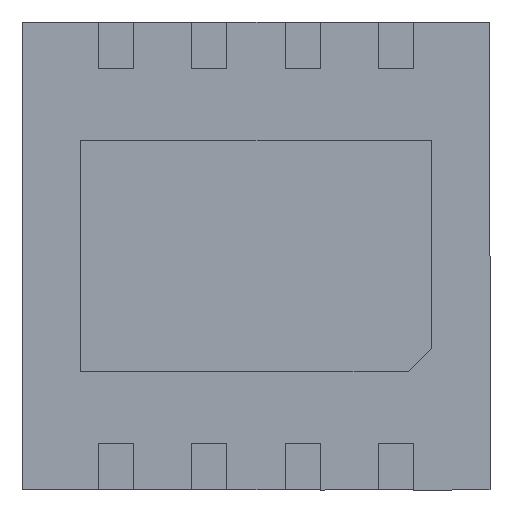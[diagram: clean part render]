
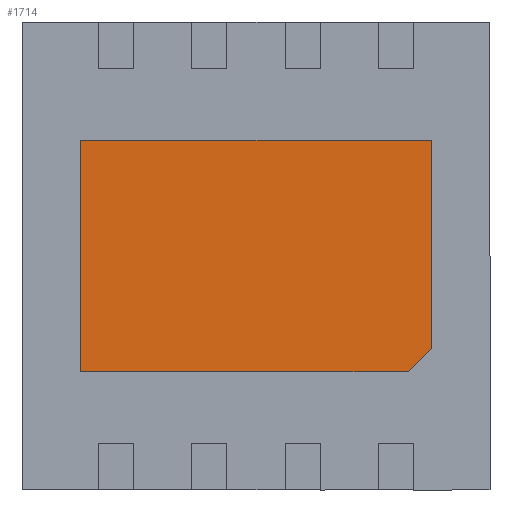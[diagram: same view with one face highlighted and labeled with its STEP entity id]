
A CAD part, front view. The second image highlights one B-rep face of the part: STEP entity #1714.
In plain terms, the highlighted planar face has unit normal (0, -1, 0).
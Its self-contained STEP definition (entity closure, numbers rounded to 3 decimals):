
#47 = EDGE_CURVE ( 'NONE', #1063, #1628, #2824, .T. ) ;
#126 = CARTESIAN_POINT ( 'NONE',  ( 0.99, 0., -1.5 ) ) ;
#172 = DIRECTION ( 'NONE',  ( 1., 0., 0. ) ) ;
#233 = VECTOR ( 'NONE', #2518, 1000. ) ;
#253 = CARTESIAN_POINT ( 'NONE',  ( 0.99, 0., 1.5 ) ) ;
#440 = VERTEX_POINT ( 'NONE', #2720 ) ;
#528 = FACE_OUTER_BOUND ( 'NONE', #708, .T. ) ;
#533 = CARTESIAN_POINT ( 'NONE',  ( 0.99, 0., 1.5 ) ) ;
#652 = CARTESIAN_POINT ( 'NONE',  ( 0.99, 0., -1.5 ) ) ;
#685 = ORIENTED_EDGE ( 'NONE', *, *, #1474, .T. ) ;
#708 = EDGE_LOOP ( 'NONE', ( #685, #1148, #1453, #1261, #1161 ) ) ;
#752 = CARTESIAN_POINT ( 'NONE',  ( 0., 0., 0. ) ) ;
#824 = CARTESIAN_POINT ( 'NONE',  ( -0.99, 0., 1.5 ) ) ;
#984 = AXIS2_PLACEMENT_3D ( 'NONE', #752, #1459, #1214 ) ;
#991 = LINE ( 'NONE', #253, #1044 ) ;
#1044 = VECTOR ( 'NONE', #2932, 1000. ) ;
#1063 = VERTEX_POINT ( 'NONE', #2379 ) ;
#1082 = VECTOR ( 'NONE', #2383, 1000. ) ;
#1148 = ORIENTED_EDGE ( 'NONE', *, *, #1539, .T. ) ;
#1161 = ORIENTED_EDGE ( 'NONE', *, *, #2800, .T. ) ;
#1177 = VERTEX_POINT ( 'NONE', #2428 ) ;
#1187 = CARTESIAN_POINT ( 'NONE',  ( -1.145, 0., -1.145 ) ) ;
#1214 = DIRECTION ( 'NONE',  ( 1., 0., 0. ) ) ;
#1261 = ORIENTED_EDGE ( 'NONE', *, *, #2917, .T. ) ;
#1278 = VECTOR ( 'NONE', #172, 1000. ) ;
#1299 = LINE ( 'NONE', #824, #1779 ) ;
#1453 = ORIENTED_EDGE ( 'NONE', *, *, #47, .T. ) ;
#1459 = DIRECTION ( 'NONE',  ( 0., -1., 0. ) ) ;
#1474 = EDGE_CURVE ( 'NONE', #1177, #2634, #1299, .T. ) ;
#1539 = EDGE_CURVE ( 'NONE', #2634, #1063, #1907, .T. ) ;
#1628 = VERTEX_POINT ( 'NONE', #126 ) ;
#1714 = ADVANCED_FACE ( 'NONE', ( #528 ), #1933, .T. ) ;
#1720 = DIRECTION ( 'NONE',  ( 0., 0., -1. ) ) ;
#1739 = LINE ( 'NONE', #533, #233 ) ;
#1779 = VECTOR ( 'NONE', #1720, 1000. ) ;
#1857 = CARTESIAN_POINT ( 'NONE',  ( -0.99, 0., -1.3 ) ) ;
#1907 = LINE ( 'NONE', #1187, #1082 ) ;
#1933 = PLANE ( 'NONE',  #984 ) ;
#2379 = CARTESIAN_POINT ( 'NONE',  ( -0.79, 0., -1.5 ) ) ;
#2383 = DIRECTION ( 'NONE',  ( 0.707, 0., -0.707 ) ) ;
#2428 = CARTESIAN_POINT ( 'NONE',  ( -0.99, 0., 1.5 ) ) ;
#2518 = DIRECTION ( 'NONE',  ( 0., 0., 1. ) ) ;
#2634 = VERTEX_POINT ( 'NONE', #1857 ) ;
#2720 = CARTESIAN_POINT ( 'NONE',  ( 0.99, 0., 1.5 ) ) ;
#2800 = EDGE_CURVE ( 'NONE', #440, #1177, #991, .T. ) ;
#2824 = LINE ( 'NONE', #652, #1278 ) ;
#2917 = EDGE_CURVE ( 'NONE', #1628, #440, #1739, .T. ) ;
#2932 = DIRECTION ( 'NONE',  ( -1., 0., 0. ) ) ;
